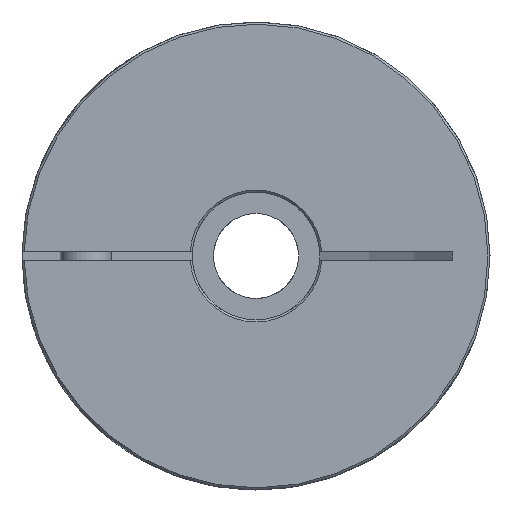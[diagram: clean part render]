
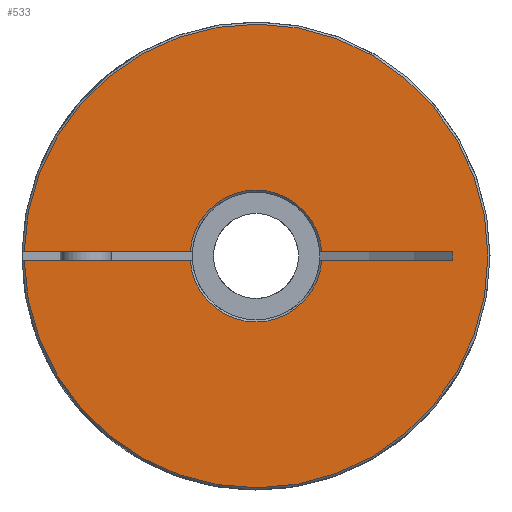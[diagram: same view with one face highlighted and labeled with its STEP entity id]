
A CAD part, left-side view. The second image highlights one B-rep face of the part: STEP entity #533.
In plain terms, the highlighted planar face has unit normal (-1, 0, 0).
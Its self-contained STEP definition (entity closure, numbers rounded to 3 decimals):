
#533 = ADVANCED_FACE( 'NONE', ( #1075 ), #1076, .F. );
#1075 = FACE_OUTER_BOUND( '', #1603, .T. );
#1076 = PLANE( '', #1604 );
#1603 = EDGE_LOOP( '', ( #2717, #2718, #2719, #2720, #2721, #2722, #2723, #2724 ) );
#1604 = AXIS2_PLACEMENT_3D( '', #2725, #2726, #2727 );
#2717 = ORIENTED_EDGE( '', *, *, #3283, .T. );
#2718 = ORIENTED_EDGE( '', *, *, #3275, .T. );
#2719 = ORIENTED_EDGE( '', *, *, #3154, .T. );
#2720 = ORIENTED_EDGE( '', *, *, #3252, .T. );
#2721 = ORIENTED_EDGE( '', *, *, #2987, .F. );
#2722 = ORIENTED_EDGE( '', *, *, #3105, .T. );
#2723 = ORIENTED_EDGE( '', *, *, #2959, .F. );
#2724 = ORIENTED_EDGE( '', *, *, #3215, .T. );
#2725 = CARTESIAN_POINT( '', ( 0., 15., 0. ) );
#2726 = DIRECTION( '', ( 1., 0., 0. ) );
#2727 = DIRECTION( '', ( 0., 1., 0. ) );
#2959 = EDGE_CURVE( 'NONE', #3492, #3493, #3494, .F. );
#2987 = EDGE_CURVE( 'NONE', #3540, #3542, #3543, .F. );
#3105 = EDGE_CURVE( 'NONE', #3540, #3493, #3718, .T. );
#3154 = EDGE_CURVE( 'NONE', #3785, #3786, #3787, .T. );
#3215 = EDGE_CURVE( 'NONE', #3492, #3865, #3867, .T. );
#3252 = EDGE_CURVE( 'NONE', #3786, #3542, #3912, .F. );
#3275 = EDGE_CURVE( 'NONE', #3937, #3785, #3938, .T. );
#3283 = EDGE_CURVE( 'NONE', #3865, #3937, #3946, .T. );
#3492 = VERTEX_POINT( 'NONE', #4272 );
#3493 = VERTEX_POINT( 'NONE', #4273 );
#3494 = LINE( '', #4274, #4275 );
#3540 = VERTEX_POINT( 'NONE', #4415 );
#3542 = VERTEX_POINT( 'NONE', #4420 );
#3543 = LINE( '', #4421, #4422 );
#3718 = CIRCLE( '', #4626, 15.5 );
#3785 = VERTEX_POINT( 'NONE', #4886 );
#3786 = VERTEX_POINT( 'NONE', #4887 );
#3787 = LINE( '', #4888, #4889 );
#3865 = VERTEX_POINT( 'NONE', #4991 );
#3867 = LINE( '', #4993, #4994 );
#3912 = CIRCLE( '', #5046, 54.5 );
#3937 = VERTEX_POINT( 'NONE', #5072 );
#3938 = CIRCLE( '', #5073, 15.5 );
#3946 = LINE( '', #5084, #5085 );
#4272 = CARTESIAN_POINT( '', ( 0., 46.303, -1. ) );
#4273 = CARTESIAN_POINT( '', ( 0., 15.468, -1. ) );
#4274 = CARTESIAN_POINT( '', ( 0., -15., -1. ) );
#4275 = VECTOR( '', #5311, 1000. );
#4415 = CARTESIAN_POINT( '', ( 0., -15.468, -1. ) );
#4420 = CARTESIAN_POINT( '', ( 0., -54.491, -1. ) );
#4421 = CARTESIAN_POINT( '', ( 0., -15., -1. ) );
#4422 = VECTOR( '', #5346, 1000. );
#4626 = AXIS2_PLACEMENT_3D( '', #5541, #5542, #5543 );
#4886 = CARTESIAN_POINT( '', ( 0., -15.468, 1. ) );
#4887 = CARTESIAN_POINT( '', ( 0., -54.491, 1. ) );
#4888 = CARTESIAN_POINT( '', ( 0., 15., 1. ) );
#4889 = VECTOR( '', #5599, 1000. );
#4991 = CARTESIAN_POINT( '', ( 0., 46.303, 1. ) );
#4993 = CARTESIAN_POINT( '', ( 0., 46.303, -1. ) );
#4994 = VECTOR( '', #5672, 1000. );
#5046 = AXIS2_PLACEMENT_3D( '', #5728, #5729, #5730 );
#5072 = CARTESIAN_POINT( '', ( 0., 15.468, 1. ) );
#5073 = AXIS2_PLACEMENT_3D( '', #5750, #5751, #5752 );
#5084 = CARTESIAN_POINT( '', ( 0., 15., 1. ) );
#5085 = VECTOR( '', #5759, 1000. );
#5311 = DIRECTION( '', ( 0., 1., 0. ) );
#5346 = DIRECTION( '', ( 0., 1., 0. ) );
#5541 = CARTESIAN_POINT( '', ( 0., 0., 0. ) );
#5542 = DIRECTION( '', ( 1., 0., 0. ) );
#5543 = DIRECTION( '', ( 0., 0., -1. ) );
#5599 = DIRECTION( '', ( 0., -1., 0. ) );
#5672 = DIRECTION( '', ( 0., 0., 1. ) );
#5728 = CARTESIAN_POINT( '', ( 0., 0., 0. ) );
#5729 = DIRECTION( '', ( 1., 0., 0. ) );
#5730 = DIRECTION( '', ( 0., 0., -1. ) );
#5750 = CARTESIAN_POINT( '', ( 0., 0., 0. ) );
#5751 = DIRECTION( '', ( 1., 0., 0. ) );
#5752 = DIRECTION( '', ( 0., 0., -1. ) );
#5759 = DIRECTION( '', ( 0., -1., 0. ) );
